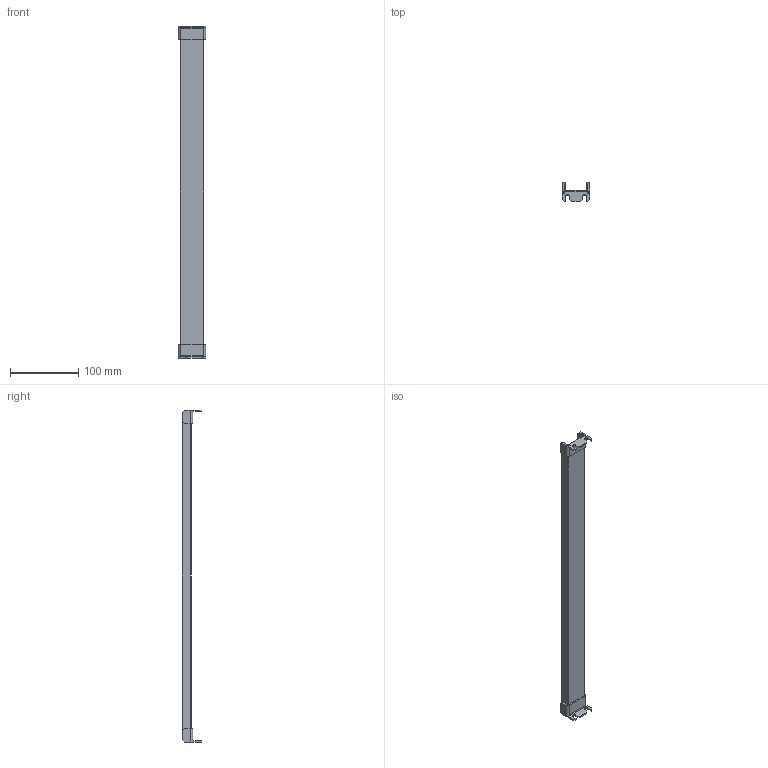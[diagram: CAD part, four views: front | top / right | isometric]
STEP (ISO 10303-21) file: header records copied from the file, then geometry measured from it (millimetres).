
FILE_DESCRIPTION (( 'STEP AP203' ), '1' );
FILE_NAME ('GB 60 ÑÁ Ïëàíêà ðàçäåëèòåëüíàÿ.STEP', '2012-11-21T06:55:36', ( 'system' ), ( '' ), 'SwSTEP 2.0', 'SolidWorks 2012', '' );
FILE_SCHEMA (( 'CONFIG_CONTROL_DESIGN' ));
Length unit declared in the file: millimetre
Products named in the file (1): GB 60 ÑÁ Ïëàíêà ðàçäåëèòåëüíàÿ
Bounding box: 40 x 28.34 x 487 mm (x, y, z)
Volume: 46318.9 mm3; surface area: 60797.9 mm2
Topology: 1 solids, 1 shells, 92 faces, 266 edges, 176 vertices
Faces by surface type: plane 70, cylinder 22
Entity records: 3079 total; most frequent: CARTESIAN_POINT 535, ORIENTED_EDGE 532, DIRECTION 496, EDGE_CURVE 266, LINE 222, VECTOR 222, VERTEX_POINT 176, AXIS2_PLACEMENT_3D 137
